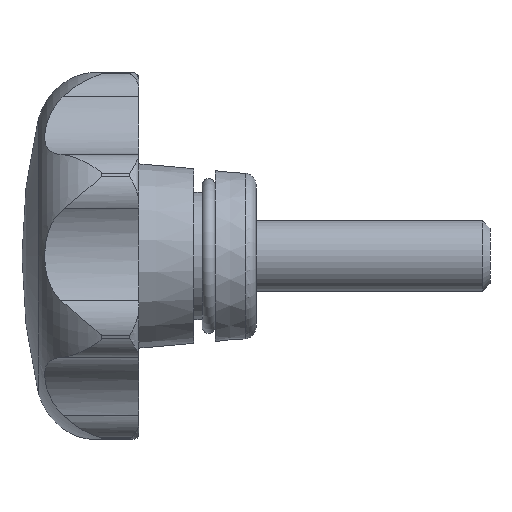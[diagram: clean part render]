
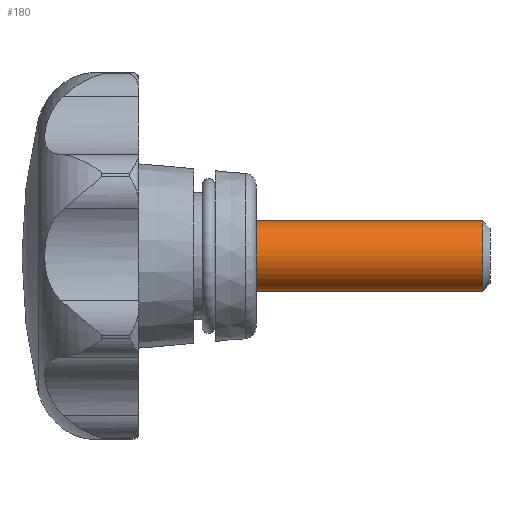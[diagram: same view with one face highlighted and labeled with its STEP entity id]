
A CAD part, left-side view. The second image highlights one B-rep face of the part: STEP entity #180.
In plain terms, the highlighted cylindrical face has radius 3 mm (diameter 6 mm), a full revolution.
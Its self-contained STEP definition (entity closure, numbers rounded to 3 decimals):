
#180 = ADVANCED_FACE( '', ( #345, #346 ), #347, .T. );
#345 = FACE_OUTER_BOUND( '', #675, .T. );
#346 = FACE_OUTER_BOUND( '', #676, .T. );
#347 = CYLINDRICAL_SURFACE( '', #677, 3. );
#675 = EDGE_LOOP( '', ( #1036 ) );
#676 = EDGE_LOOP( '', ( #1037 ) );
#677 = AXIS2_PLACEMENT_3D( '', #1038, #1039, #1040 );
#1036 = ORIENTED_EDGE( '', *, *, #2051, .F. );
#1037 = ORIENTED_EDGE( '', *, *, #2052, .T. );
#1038 = CARTESIAN_POINT( '', ( 0., -20., 0. ) );
#1039 = DIRECTION( '', ( 0., 1., 0. ) );
#1040 = DIRECTION( '', ( 0., 0., -1. ) );
#2051 = EDGE_CURVE( '', #2398, #2398, #2399, .T. );
#2052 = EDGE_CURVE( '', #2400, #2400, #2401, .T. );
#2398 = VERTEX_POINT( '', #3057 );
#2399 = CIRCLE( '', #3058, 3. );
#2400 = VERTEX_POINT( '', #3059 );
#2401 = CIRCLE( '', #3060, 3. );
#3057 = CARTESIAN_POINT( '', ( 0., -19.387, -3. ) );
#3058 = AXIS2_PLACEMENT_3D( '', #4699, #4700, #4701 );
#3059 = CARTESIAN_POINT( '', ( 0., 0., -3. ) );
#3060 = AXIS2_PLACEMENT_3D( '', #4702, #4703, #4704 );
#4699 = CARTESIAN_POINT( '', ( 0., -19.387, 0. ) );
#4700 = DIRECTION( '', ( 0., -1., 0. ) );
#4701 = DIRECTION( '', ( 0., 0., -1. ) );
#4702 = CARTESIAN_POINT( '', ( 0., 0., 0. ) );
#4703 = DIRECTION( '', ( 0., -1., 0. ) );
#4704 = DIRECTION( '', ( 0., 0., -1. ) );
